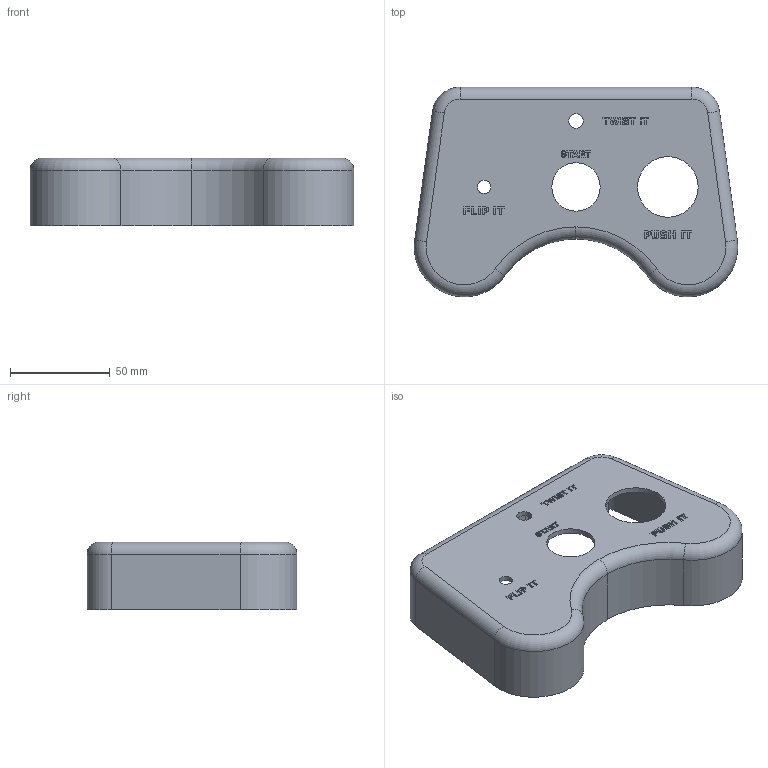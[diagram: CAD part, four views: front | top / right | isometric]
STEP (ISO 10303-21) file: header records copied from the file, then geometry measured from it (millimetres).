
FILE_DESCRIPTION(('FreeCAD Model'),'2;1');
FILE_NAME('Open CASCADE Shape Model','2026-10-21T11:20:03',('Author'),( ''),'Open CASCADE STEP processor 7.9','FreeCAD','Unknown');
FILE_SCHEMA(('AUTOMOTIVE_DESIGN { 1 0 10303 214 1 1 1 1 }'));
Length unit declared in the file: millimetre
Products named in the file (1): Controller_Top_Shell
Bounding box: 161.98 x 104.98 x 34 mm (x, y, z)
Volume: 73377.7 mm3; surface area: 59444.4 mm2
Topology: 1 solids, 1 shells, 393 faces, 1039 edges, 684 vertices
Faces by surface type: plane 229, extrusion 108, cylinder 42, torus 14
Full cylindrical faces by diameter (mm): 4 x4, 6.6 x1, 7.3 x1, 8 x2, 24.2 x1, 30.3 x1
Entity records: 13056 total; most frequent: CARTESIAN_POINT 3613, ORIENTED_EDGE 2078, DIRECTION 1605, EDGE_CURVE 1039, VECTOR 819, LINE 711, VERTEX_POINT 684, FACE_BOUND 439
